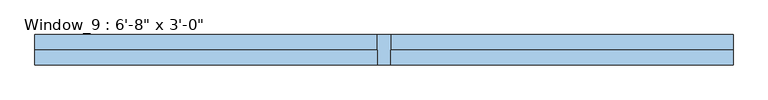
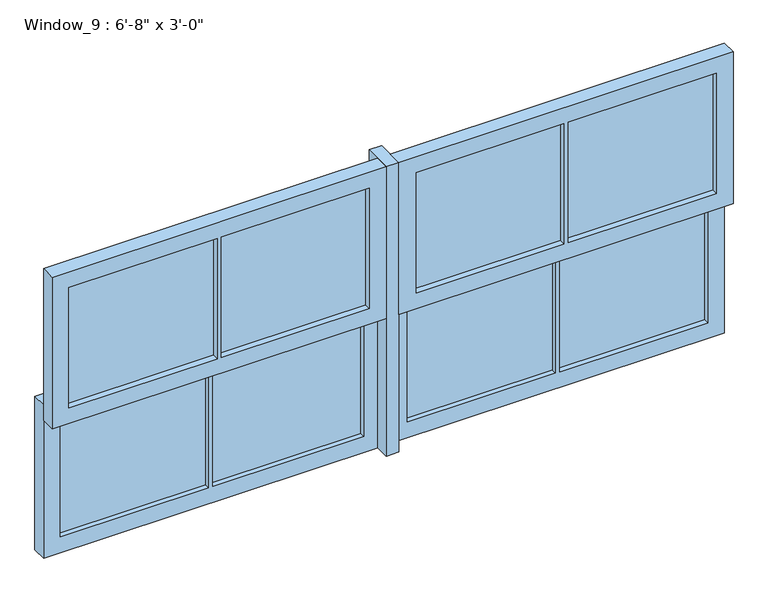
"""IFC4 building model written with IfcOpenShell, lengths in millimetres: window geometry."""

from ifc_helpers import new_model, si_unit, frame, origin, place, context, project, spatial, polyline, outline, extrude, source, transform, mapped, element, save


def window_ae0c0cb5(model_context):
    return source(origin(), model_context, "Body", "SweptSolid", [
        extrude(outline(polyline([(-523.875, -31.75), (-523.875, -38.6853592), (-966.0, -38.6853592), (-966.0, -31.75), (-523.875, -31.75)])), frame((0.0, 0.0, 1323.175), z_axis=(0.0, 0.0, 1.0), x_axis=(1.0, 0.0, 0.0)), (0.0, 0.0, 1.0), 379.425),
        extrude(outline(polyline([(966.0, -31.75), (966.0, -38.6853592), (523.875, -38.6853592), (523.875, -31.75), (966.0, -31.75)])), frame((0.0, 0.0, 1323.175), z_axis=(0.0, 0.0, 1.0), x_axis=(1.0, 0.0, 0.0)), (0.0, 0.0, 1.0), 379.425),
        extrude(outline(polyline([(511.175, -31.75), (511.175, -38.6853592), (69.85, -38.6853592), (69.85, -31.75), (511.175, -31.75)])), frame((0.0, 0.0, 1323.175), z_axis=(0.0, 0.0, 1.0), x_axis=(1.0, 0.0, 0.0)), (0.0, 0.0, 1.0), 379.425),
        extrude(outline(polyline([(-69.85, -31.75), (-69.85, -38.6853592), (-511.175, -38.6853592), (-511.175, -31.75), (-69.85, -31.75)])), frame((0.0, 0.0, 1323.175), z_axis=(0.0, 0.0, 1.0), x_axis=(1.0, 0.0, 0.0)), (0.0, 0.0, 1.0), 379.425),
        extrude(outline(polyline([(1752.6, 19.05), (1273.175, 19.05), (1273.175, 1016.0), (1752.6, 1016.0), (1752.6, 19.05)]), holes=[polyline([(1702.6, 523.875), (1702.6, 966.0), (1323.175, 966.0), (1323.175, 523.875), (1702.6, 523.875)]), polyline([(1702.6, 69.85), (1702.6, 511.175), (1323.175, 511.175), (1323.175, 69.85), (1702.6, 69.85)])]), frame((0.0, -57.15, 0.0), z_axis=(0.0, 1.0, 0.0), x_axis=(0.0, 0.0, 1.0)), (0.0, 0.0, 1.0), 44.45),
        extrude(outline(polyline([(1273.175, -1016.0), (1273.175, -19.05), (1752.6, -19.05), (1752.6, -1016.0), (1273.175, -1016.0)]), holes=[polyline([(1323.175, -966.0), (1702.6, -966.0), (1702.6, -523.875), (1323.175, -523.875), (1323.175, -966.0)]), polyline([(1323.175, -69.85), (1323.175, -511.175), (1702.6, -511.175), (1702.6, -69.85), (1323.175, -69.85)])]), frame((0.0, -57.15, 0.0), z_axis=(0.0, 1.0, 0.0), x_axis=(0.0, 0.0, 1.0)), (0.0, 0.0, 1.0), 44.45),
        extrude(outline(polyline([(-19.05, 31.75), (19.05, 31.75), (19.05, -57.15), (-19.05, -57.15), (-19.05, 31.75)])), frame((0.0, 0.0, 838.2), z_axis=(0.0, 0.0, 1.0), x_axis=(1.0, 0.0, 0.0)), (0.0, 0.0, 1.0), 914.4),
        extrude(outline(polyline([(523.875, 3.175), (523.875, 15.875), (966.0, 15.875), (966.0, 3.175), (523.875, 3.175)])), frame((0.0, 0.0, 888.2), z_axis=(0.0, 0.0, 1.0), x_axis=(1.0, 0.0, 0.0)), (0.0, 0.0, 1.0), 384.975),
        extrude(outline(polyline([(-966.0, 3.175), (-966.0, 15.875), (-523.875, 15.875), (-523.875, 3.175), (-966.0, 3.175)])), frame((0.0, 0.0, 888.2), z_axis=(0.0, 0.0, 1.0), x_axis=(1.0, 0.0, 0.0)), (0.0, 0.0, 1.0), 384.975),
        extrude(outline(polyline([(-511.175, 3.175), (-511.175, 15.875), (-60.6961431, 15.875), (-60.6961431, 3.175), (-511.175, 3.175)])), frame((0.0, 0.0, 888.2), z_axis=(0.0, 0.0, 1.0), x_axis=(1.0, 0.0, 0.0)), (0.0, 0.0, 1.0), 384.975),
        extrude(outline(polyline([(69.85, 3.175), (69.85, 15.875), (511.175, 15.875), (511.175, 3.175), (69.85, 3.175)])), frame((0.0, 0.0, 888.2), z_axis=(0.0, 0.0, 1.0), x_axis=(1.0, 0.0, 0.0)), (0.0, 0.0, 1.0), 384.975),
        extrude(outline(polyline([(1323.175, 19.05), (838.2, 19.05), (838.2, 1016.0), (1323.175, 1016.0), (1323.175, 19.05)]), holes=[polyline([(1273.175, 523.875), (1273.175, 966.0), (888.2, 966.0), (888.2, 523.875), (1273.175, 523.875)]), polyline([(1273.175, 69.85), (1273.175, 511.175), (888.2, 511.175), (888.2, 69.85), (1273.175, 69.85)])]), frame((0.0, -12.7, 0.0), z_axis=(0.0, 1.0, 0.0), x_axis=(0.0, 0.0, 1.0)), (0.0, 0.0, 1.0), 44.45),
        extrude(outline(polyline([(838.2, -1016.0), (838.2, -19.05), (1323.175, -19.05), (1323.175, -1016.0), (838.2, -1016.0)]), holes=[polyline([(888.2, -966.0), (1273.175, -966.0), (1273.175, -523.875), (888.2, -523.875), (888.2, -966.0)]), polyline([(888.2, -60.6961431), (888.2, -511.175), (1273.175, -511.175), (1273.175, -60.6961431), (888.2, -60.6961431)])]), frame((0.0, -12.7, 0.0), z_axis=(0.0, 1.0, 0.0), x_axis=(0.0, 0.0, 1.0)), (0.0, 0.0, 1.0), 44.45),
    ])


if __name__ == "__main__":
    model = new_model("IFC4")
    model_context = context("Model", 3, world=origin())
    ifc_project = project(units=[si_unit("LENGTHUNIT", "METRE", prefix="MILLI")], contexts=[model_context])
    site = spatial("IfcSite", under=ifc_project)
    building = spatial("IfcBuilding", under=site)
    placement = place(None, origin())
    window_shape = window_ae0c0cb5(model_context)
    element("IfcWindow", 1, ObjectType="Window_9 : 6'-8\" x 3'-0\"", at=placement, inside=building, context=model_context, shape_type="MappedRepresentation", body=[
        mapped(window_shape, transform((0.0, 0.0, 0.0), x_axis=(1.0, 0.0, 0.0), y_axis=(0.0, 1.0, 0.0), z_axis=(0.0, 0.0, 1.0))),
    ])
    save(model, "model.ifc")
